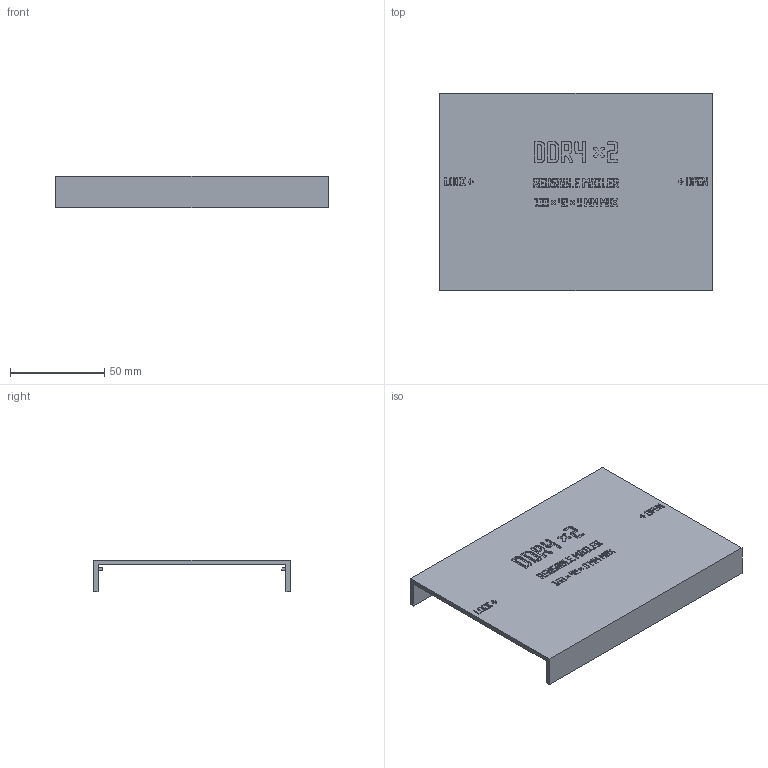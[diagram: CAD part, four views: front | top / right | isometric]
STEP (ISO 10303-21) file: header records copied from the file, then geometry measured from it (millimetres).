
FILE_DESCRIPTION(('Open CASCADE Model'),'2;1');
FILE_NAME('Open CASCADE Shape Model','2026-11-03T17:32:33',('Author'),( 'Open CASCADE'),'Open CASCADE STEP processor 8.0','build123d', 'Unknown');
FILE_SCHEMA(('AUTOMOTIVE_DESIGN { 1 0 10303 214 1 1 1 1 }'));
Products named in the file (1): COMPOUND
Bounding box: 144.45 x 104.4 x 16.6 mm (x, y, z)
Volume: 45776 mm3; surface area: 40572.3 mm2
Topology: 1 solids, 1 shells, 4152 faces, 12267 edges, 8178 vertices
Faces by surface type: plane 4152
Entity records: 286930 total; most frequent: CARTESIAN_POINT 57254, DIRECTION 36985, LINE 28679, VECTOR 28679, ORIENTED_EDGE 24534, PCURVE 24534, DEFINITIONAL_REPRESENTATION 24534, EDGE_CURVE 12267
